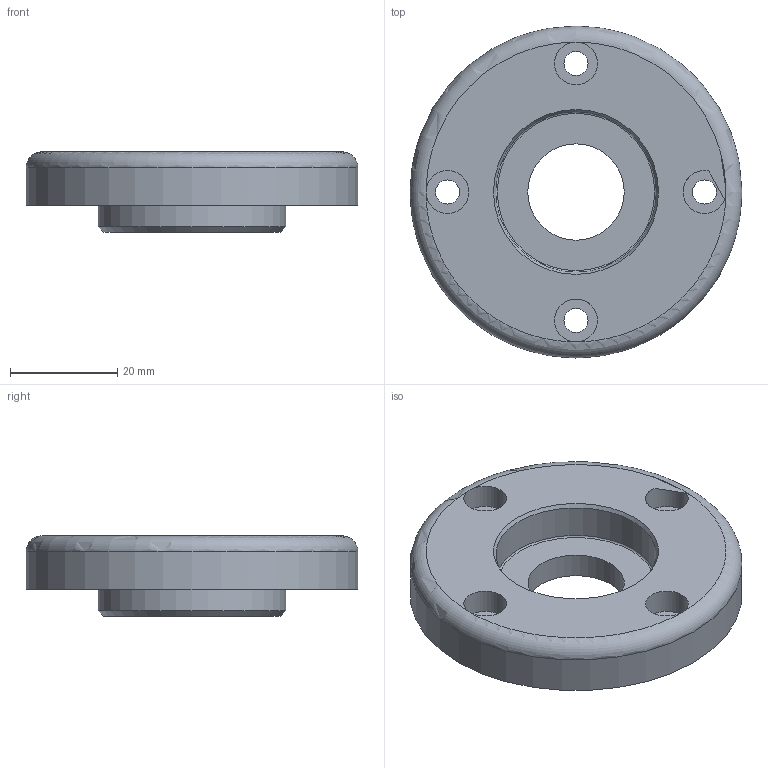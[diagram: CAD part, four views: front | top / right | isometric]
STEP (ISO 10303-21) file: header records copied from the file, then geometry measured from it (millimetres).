
FILE_DESCRIPTION(/* description */ (''),/* implementation_level */ '2;1');
FILE_NAME(/* name */ '',/* time_stamp */ '2025-08-05T14:08:24+09:00',/* author */ ('jhkim'),/* organization */ (''),/* preprocessor_version */ 'ST-DEVELOPER v20.1',/* originating_system */ 'Autodesk Inventor 2026',/* authorisation */ '');
FILE_SCHEMA (('AUTOMOTIVE_DESIGN { 1 0 10303 214 3 1 1 }'));
Length unit declared in the file: millimetre
Products named in the file (1): 앞커버
Bounding box: 62 x 62 x 15 mm (x, y, z)
Volume: 24996.5 mm3; surface area: 9418.5 mm2
Topology: 1 solids, 1 shells, 26 faces, 56 edges, 35 vertices
Faces by surface type: cylinder 12, plane 9, torus 3, cone 2
Full cylindrical faces by diameter (mm): 4.5 x4, 8 x4, 18 x1, 30 x1, 35 x1, 62 x1
Entity records: 789 total; most frequent: DIRECTION 152, CARTESIAN_POINT 118, ORIENTED_EDGE 112, AXIS2_PLACEMENT_3D 69, EDGE_CURVE 56, CIRCLE 42, EDGE_LOOP 39, VERTEX_POINT 35
